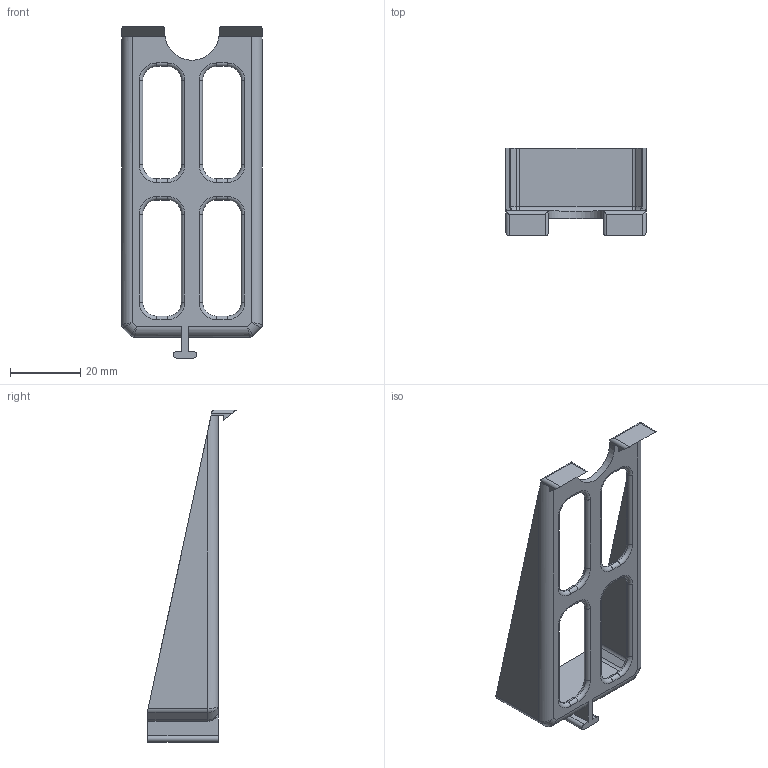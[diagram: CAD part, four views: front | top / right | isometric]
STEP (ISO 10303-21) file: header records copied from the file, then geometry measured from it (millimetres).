
FILE_DESCRIPTION (( 'STEP AP203' ), '1' );
FILE_NAME ('06-12-13-00.STEP', '2020-05-27T07:06:32', ( '' ), ( '' ), 'SwSTEP 2.0', 'SolidWorks 2014', '' );
FILE_SCHEMA (( 'CONFIG_CONTROL_DESIGN' ));
Length unit declared in the file: millimetre
Products named in the file (1): 06-12-13-00
Bounding box: 40 x 25.08 x 94.4 mm (x, y, z)
Volume: 6428.9 mm3; surface area: 9795.7 mm2
Topology: 1 solids, 1 shells, 135 faces, 345 edges, 204 vertices
Faces by surface type: cylinder 62, plane 33, torus 32, sphere 4, bspline 4
Entity records: 4196 total; most frequent: CARTESIAN_POINT 871, DIRECTION 723, ORIENTED_EDGE 674, EDGE_CURVE 337, AXIS2_PLACEMENT_3D 280, VERTEX_POINT 204, LINE 163, VECTOR 163
